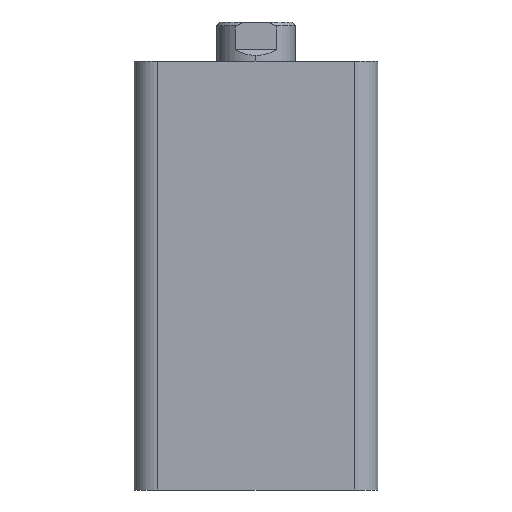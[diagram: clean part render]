
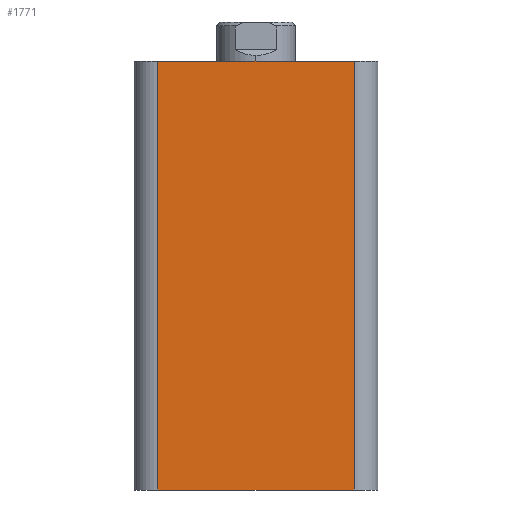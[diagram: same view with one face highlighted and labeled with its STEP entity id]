
A CAD part, left-side view. The second image highlights one B-rep face of the part: STEP entity #1771.
In plain terms, the highlighted planar face has unit normal (-1, 0, 0).
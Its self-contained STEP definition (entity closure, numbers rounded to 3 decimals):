
#108 = VECTOR ( 'NONE', #480, 1000. ) ;
#125 = LINE ( 'NONE', #473, #108 ) ;
#244 = EDGE_CURVE ( 'NONE', #3475, #3477, #3604, .T. ) ;
#268 = EDGE_CURVE ( 'NONE', #3583, #3475, #5037, .T. ) ;
#276 = EDGE_CURVE ( 'NONE', #3477, #3482, #1876, .T. ) ;
#473 = CARTESIAN_POINT ( 'NONE',  ( -31., 31., 109. ) ) ;
#480 = DIRECTION ( 'NONE',  ( 0., -1., 0. ) ) ;
#1771 = ADVANCED_FACE ( 'NONE', ( #2633 ), #4725, .F. ) ;
#1872 = VECTOR ( 'NONE', #4818, 1000. ) ;
#1876 = LINE ( 'NONE', #4821, #1872 ) ;
#2571 = EDGE_CURVE ( 'NONE', #3583, #3482, #125, .T. ) ;
#2633 = FACE_OUTER_BOUND ( 'NONE', #3717, .T. ) ;
#2663 = AXIS2_PLACEMENT_3D ( 'NONE', #4747, #4718, #4715 ) ;
#3475 = VERTEX_POINT ( 'NONE', #4215 ) ;
#3477 = VERTEX_POINT ( 'NONE', #4217 ) ;
#3482 = VERTEX_POINT ( 'NONE', #4222 ) ;
#3583 = VERTEX_POINT ( 'NONE', #4330 ) ;
#3600 = VECTOR ( 'NONE', #4816, 1000. ) ;
#3604 = LINE ( 'NONE', #4794, #3600 ) ;
#3717 = EDGE_LOOP ( 'NONE', ( #4092, #4093, #4094, #4095 ) ) ;
#4092 = ORIENTED_EDGE ( 'NONE', *, *, #244, .T. ) ;
#4093 = ORIENTED_EDGE ( 'NONE', *, *, #276, .T. ) ;
#4094 = ORIENTED_EDGE ( 'NONE', *, *, #2571, .F. ) ;
#4095 = ORIENTED_EDGE ( 'NONE', *, *, #268, .T. ) ;
#4215 = CARTESIAN_POINT ( 'NONE',  ( -31., 25., 0. ) ) ;
#4217 = CARTESIAN_POINT ( 'NONE',  ( -31., -25., 0. ) ) ;
#4222 = CARTESIAN_POINT ( 'NONE',  ( -31., -25., 109. ) ) ;
#4330 = CARTESIAN_POINT ( 'NONE',  ( -31., 25., 109. ) ) ;
#4715 = DIRECTION ( 'NONE',  ( 0., 0., -1. ) ) ;
#4718 = DIRECTION ( 'NONE',  ( 1., 0., 0. ) ) ;
#4725 = PLANE ( 'NONE',  #2663 ) ;
#4747 = CARTESIAN_POINT ( 'NONE',  ( -31., 31., 109. ) ) ;
#4794 = CARTESIAN_POINT ( 'NONE',  ( -31., 31., 0. ) ) ;
#4816 = DIRECTION ( 'NONE',  ( 0., -1., 0. ) ) ;
#4818 = DIRECTION ( 'NONE',  ( 0., 0., 1. ) ) ;
#4821 = CARTESIAN_POINT ( 'NONE',  ( -31., -25., 109. ) ) ;
#4837 = DIRECTION ( 'NONE',  ( 0., 0., -1. ) ) ;
#4838 = CARTESIAN_POINT ( 'NONE',  ( -31., 25., 109. ) ) ;
#5034 = VECTOR ( 'NONE', #4837, 1000. ) ;
#5037 = LINE ( 'NONE', #4838, #5034 ) ;
